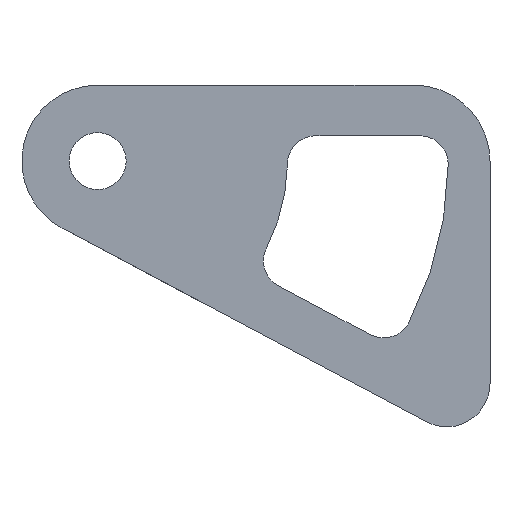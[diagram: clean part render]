
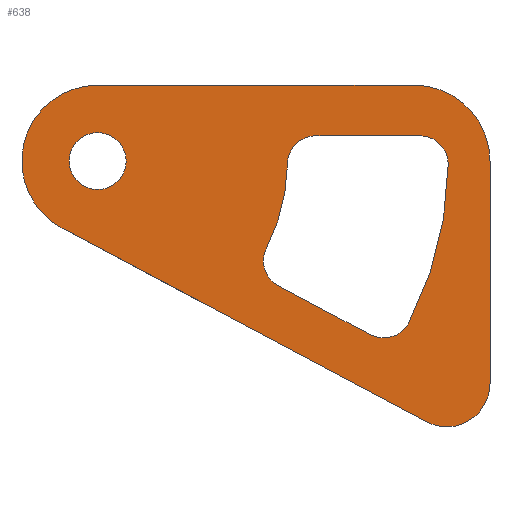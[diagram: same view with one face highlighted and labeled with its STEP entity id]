
A CAD part, front view. The second image highlights one B-rep face of the part: STEP entity #638.
In plain terms, the highlighted planar face has unit normal (0, -1, 0).
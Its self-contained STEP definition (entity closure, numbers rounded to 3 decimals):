
#16=DIRECTION('',(1.,0.,0.));
#17=VECTOR('',#16,25.);
#18=CARTESIAN_POINT('',(6.,-9.,0.));
#19=LINE('',#18,#17);
#24=CARTESIAN_POINT('',(31.,-9.,-6.));
#25=DIRECTION('',(0.,1.,0.));
#26=DIRECTION('',(0.,0.,1.));
#27=AXIS2_PLACEMENT_3D('',#24,#25,#26);
#32=DIRECTION('',(0.,0.,-1.));
#33=VECTOR('',#32,17.57);
#34=CARTESIAN_POINT('',(37.,-9.,-6.));
#35=LINE('',#34,#33);
#39=CARTESIAN_POINT('',(33.57,-9.,-23.57));
#40=DIRECTION('',(0.,1.,0.));
#41=DIRECTION('',(1.,0.,0.));
#42=AXIS2_PLACEMENT_3D('',#39,#40,#41);
#47=DIRECTION('',(-0.883,0.,0.469));
#48=VECTOR('',#47,32.592);
#49=CARTESIAN_POINT('',(31.96,-9.,-26.599));
#50=LINE('',#49,#48);
#54=CARTESIAN_POINT('',(6.,-9.,-6.));
#55=DIRECTION('',(0.,1.,0.));
#56=DIRECTION('',(-0.469,0.,-0.883));
#57=AXIS2_PLACEMENT_3D('',#54,#55,#56);
#62=DIRECTION('',(0.883,0.,-0.469));
#63=VECTOR('',#62,8.201);
#64=CARTESIAN_POINT('',(20.29,-9.,-15.863));
#65=LINE('',#64,#63);
#69=CARTESIAN_POINT('',(28.587,-9.,-17.727));
#70=DIRECTION('',(0.,-1.,0.));
#71=DIRECTION('',(-0.469,0.,-0.883));
#72=AXIS2_PLACEMENT_3D('',#69,#70,#71);
#77=CARTESIAN_POINT('',(6.,-9.,-6.));
#78=DIRECTION('',(0.,-1.,0.));
#79=DIRECTION('',(0.888,0.,-0.461));
#80=AXIS2_PLACEMENT_3D('',#77,#78,#79);
#85=CARTESIAN_POINT('',(31.449,-9.,-6.25));
#86=DIRECTION('',(0.,-1.,0.));
#87=DIRECTION('',(1.,0.,-0.01));
#88=AXIS2_PLACEMENT_3D('',#85,#86,#87);
#93=DIRECTION('',(-1.,0.,0.));
#94=VECTOR('',#93,8.201);
#95=CARTESIAN_POINT('',(31.449,-9.,-4.));
#96=LINE('',#95,#94);
#100=CARTESIAN_POINT('',(23.248,-9.,-6.25));
#101=DIRECTION('',(0.,-1.,0.));
#102=DIRECTION('',(0.,0.,1.));
#103=AXIS2_PLACEMENT_3D('',#100,#101,#102);
#108=CARTESIAN_POINT('',(6.,-9.,-6.));
#109=DIRECTION('',(0.,1.,0.));
#110=DIRECTION('',(1.,0.,-0.014));
#111=AXIS2_PLACEMENT_3D('',#108,#109,#110);
#116=CARTESIAN_POINT('',(21.347,-9.,-13.877));
#117=DIRECTION('',(0.,-1.,0.));
#118=DIRECTION('',(-0.89,0.,0.457));
#119=AXIS2_PLACEMENT_3D('',#116,#117,#118);
#124=CARTESIAN_POINT('',(6.,-9.,-6.));
#125=DIRECTION('',(0.,-1.,0.));
#126=DIRECTION('',(1.,0.,0.));
#127=AXIS2_PLACEMENT_3D('',#124,#125,#126);
#132=CARTESIAN_POINT('',(6.,-9.,-6.));
#133=DIRECTION('',(0.,-1.,0.));
#134=DIRECTION('',(-1.,0.,0.));
#135=AXIS2_PLACEMENT_3D('',#132,#133,#134);
#525=CARTESIAN_POINT('',(8.25,-9.,-6.));
#526=VERTEX_POINT('',#525);
#529=CARTESIAN_POINT('',(3.75,-9.,-6.));
#530=VERTEX_POINT('',#529);
#531=CARTESIAN_POINT('',(6.,-9.,0.));
#532=CARTESIAN_POINT('',(31.,-9.,0.));
#533=VERTEX_POINT('',#531);
#534=VERTEX_POINT('',#532);
#535=CARTESIAN_POINT('',(37.,-9.,-6.));
#536=VERTEX_POINT('',#535);
#537=CARTESIAN_POINT('',(37.,-9.,-23.57));
#538=VERTEX_POINT('',#537);
#539=CARTESIAN_POINT('',(31.96,-9.,-26.599));
#540=VERTEX_POINT('',#539);
#541=CARTESIAN_POINT('',(3.183,-9.,-11.298));
#542=VERTEX_POINT('',#541);
#543=CARTESIAN_POINT('',(20.29,-9.,-15.863));
#544=CARTESIAN_POINT('',(27.531,-9.,-19.713));
#545=VERTEX_POINT('',#543);
#546=VERTEX_POINT('',#544);
#547=CARTESIAN_POINT('',(30.584,-9.,-18.763));
#548=VERTEX_POINT('',#547);
#549=CARTESIAN_POINT('',(33.699,-9.,-6.272));
#550=VERTEX_POINT('',#549);
#551=CARTESIAN_POINT('',(31.449,-9.,-4.));
#552=VERTEX_POINT('',#551);
#553=CARTESIAN_POINT('',(23.248,-9.,-4.));
#554=VERTEX_POINT('',#553);
#555=CARTESIAN_POINT('',(20.998,-9.,-6.217));
#556=VERTEX_POINT('',#555);
#557=CARTESIAN_POINT('',(19.345,-9.,-12.849));
#558=VERTEX_POINT('',#557);
#595=CARTESIAN_POINT('',(0.,-9.,0.));
#596=DIRECTION('',(0.,1.,0.));
#597=DIRECTION('',(1.,0.,0.));
#598=AXIS2_PLACEMENT_3D('',#595,#596,#597);
#599=PLANE('',#598);
#601=ORIENTED_EDGE('',*,*,#600,.T.);
#603=ORIENTED_EDGE('',*,*,#602,.T.);
#605=ORIENTED_EDGE('',*,*,#604,.T.);
#607=ORIENTED_EDGE('',*,*,#606,.T.);
#609=ORIENTED_EDGE('',*,*,#608,.T.);
#611=ORIENTED_EDGE('',*,*,#610,.T.);
#612=EDGE_LOOP('',(#601,#603,#605,#607,#609,#611));
#613=FACE_OUTER_BOUND('',#612,.F.);
#615=ORIENTED_EDGE('',*,*,#614,.T.);
#617=ORIENTED_EDGE('',*,*,#616,.T.);
#619=ORIENTED_EDGE('',*,*,#618,.T.);
#621=ORIENTED_EDGE('',*,*,#620,.T.);
#623=ORIENTED_EDGE('',*,*,#622,.T.);
#625=ORIENTED_EDGE('',*,*,#624,.T.);
#627=ORIENTED_EDGE('',*,*,#626,.T.);
#629=ORIENTED_EDGE('',*,*,#628,.T.);
#630=EDGE_LOOP('',(#615,#617,#619,#621,#623,#625,#627,#629));
#631=FACE_BOUND('',#630,.F.);
#633=ORIENTED_EDGE('',*,*,#632,.T.);
#635=ORIENTED_EDGE('',*,*,#634,.T.);
#636=EDGE_LOOP('',(#633,#635));
#637=FACE_BOUND('',#636,.F.);
#28=CIRCLE('',#27,6.);
#43=CIRCLE('',#42,3.43);
#58=CIRCLE('',#57,6.);
#73=CIRCLE('',#72,2.25);
#81=CIRCLE('',#80,27.7);
#89=CIRCLE('',#88,2.25);
#104=CIRCLE('',#103,2.25);
#112=CIRCLE('',#111,15.);
#120=CIRCLE('',#119,2.25);
#128=CIRCLE('',#127,2.25);
#136=CIRCLE('',#135,2.25);
#600=EDGE_CURVE('',#533,#534,#19,.T.);
#602=EDGE_CURVE('',#534,#536,#28,.T.);
#604=EDGE_CURVE('',#536,#538,#35,.T.);
#606=EDGE_CURVE('',#538,#540,#43,.T.);
#608=EDGE_CURVE('',#540,#542,#50,.T.);
#610=EDGE_CURVE('',#542,#533,#58,.T.);
#614=EDGE_CURVE('',#545,#546,#65,.T.);
#616=EDGE_CURVE('',#546,#548,#73,.T.);
#618=EDGE_CURVE('',#548,#550,#81,.T.);
#620=EDGE_CURVE('',#550,#552,#89,.T.);
#622=EDGE_CURVE('',#552,#554,#96,.T.);
#624=EDGE_CURVE('',#554,#556,#104,.T.);
#626=EDGE_CURVE('',#556,#558,#112,.T.);
#628=EDGE_CURVE('',#558,#545,#120,.T.);
#632=EDGE_CURVE('',#526,#530,#128,.T.);
#634=EDGE_CURVE('',#530,#526,#136,.T.);
#638=ADVANCED_FACE('',(#613,#631,#637),#599,.F.);
